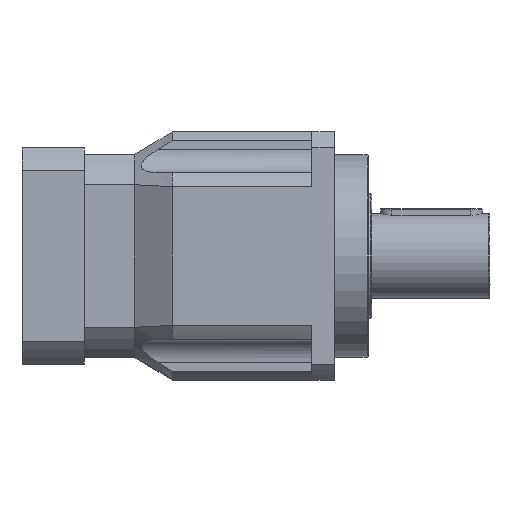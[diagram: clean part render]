
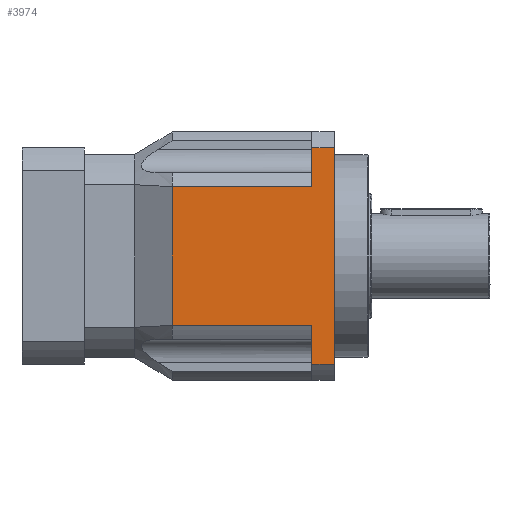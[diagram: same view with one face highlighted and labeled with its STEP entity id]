
A CAD part, front view. The second image highlights one B-rep face of the part: STEP entity #3974.
In plain terms, the highlighted planar face has unit normal (0, -1, 0).
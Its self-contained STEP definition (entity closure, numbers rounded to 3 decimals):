
#415 = CARTESIAN_POINT ( 'NONE',  ( 0., -110., -96. ) ) ;
#991 = LINE ( 'NONE', #3642, #22471 ) ;
#1016 = LINE ( 'NONE', #14905, #21692 ) ;
#1393 = VECTOR ( 'NONE', #26483, 1000. ) ;
#1495 = VECTOR ( 'NONE', #2083, 1000. ) ;
#2083 = DIRECTION ( 'NONE',  ( -1., 0., 0. ) ) ;
#2319 = EDGE_CURVE ( 'NONE', #31313, #10296, #16592, .T. ) ;
#2852 = VERTEX_POINT ( 'NONE', #12675 ) ;
#3352 = LINE ( 'NONE', #25812, #9686 ) ;
#3575 = AXIS2_PLACEMENT_3D ( 'NONE', #7586, #4949, #23786 ) ;
#3642 = CARTESIAN_POINT ( 'NONE',  ( -20., -110., -110. ) ) ;
#3974 = ADVANCED_FACE ( 'NONE', ( #22840 ), #21147, .T. ) ;
#4949 = DIRECTION ( 'NONE',  ( 0., -1., 0. ) ) ;
#6304 = VERTEX_POINT ( 'NONE', #14296 ) ;
#7083 = DIRECTION ( 'NONE',  ( 1., 0., 0. ) ) ;
#7586 = CARTESIAN_POINT ( 'NONE',  ( 0., -110., -110. ) ) ;
#7606 = VERTEX_POINT ( 'NONE', #17760 ) ;
#9686 = VECTOR ( 'NONE', #7083, 1000. ) ;
#9880 = CARTESIAN_POINT ( 'NONE',  ( 0., -110., -61.449 ) ) ;
#10233 = EDGE_LOOP ( 'NONE', ( #25854, #11196, #29592, #16395, #21115, #15401, #21593, #24035 ) ) ;
#10274 = CARTESIAN_POINT ( 'NONE',  ( -143.881, -110., 61.449 ) ) ;
#10296 = VERTEX_POINT ( 'NONE', #33581 ) ;
#10383 = EDGE_CURVE ( 'NONE', #31313, #33940, #3352, .T. ) ;
#11094 = EDGE_CURVE ( 'NONE', #34465, #6304, #13426, .T. ) ;
#11160 = VECTOR ( 'NONE', #15436, 1000. ) ;
#11196 = ORIENTED_EDGE ( 'NONE', *, *, #12151, .T. ) ;
#12151 = EDGE_CURVE ( 'NONE', #31977, #7606, #991, .T. ) ;
#12675 = CARTESIAN_POINT ( 'NONE',  ( 0., -110., -96. ) ) ;
#13016 = CARTESIAN_POINT ( 'NONE',  ( 0., -110., 61.449 ) ) ;
#13426 = LINE ( 'NONE', #14576, #27724 ) ;
#14243 = LINE ( 'NONE', #415, #28543 ) ;
#14296 = CARTESIAN_POINT ( 'NONE',  ( -143.881, -110., -61.449 ) ) ;
#14414 = EDGE_CURVE ( 'NONE', #2852, #33940, #1016, .T. ) ;
#14576 = CARTESIAN_POINT ( 'NONE',  ( -143.881, -110., -110. ) ) ;
#14905 = CARTESIAN_POINT ( 'NONE',  ( 0., -110., 0. ) ) ;
#15401 = ORIENTED_EDGE ( 'NONE', *, *, #2319, .T. ) ;
#15436 = DIRECTION ( 'NONE',  ( 1., 0., 0. ) ) ;
#16395 = ORIENTED_EDGE ( 'NONE', *, *, #14414, .T. ) ;
#16592 = LINE ( 'NONE', #34517, #1393 ) ;
#16622 = EDGE_CURVE ( 'NONE', #7606, #2852, #14243, .T. ) ;
#17760 = CARTESIAN_POINT ( 'NONE',  ( -20., -110., -96. ) ) ;
#17866 = CARTESIAN_POINT ( 'NONE',  ( -20., -110., 96. ) ) ;
#19276 = DIRECTION ( 'NONE',  ( 1., 0., 0. ) ) ;
#19746 = CARTESIAN_POINT ( 'NONE',  ( 0., -110., 96. ) ) ;
#19920 = DIRECTION ( 'NONE',  ( 0., 0., -1. ) ) ;
#21115 = ORIENTED_EDGE ( 'NONE', *, *, #10383, .F. ) ;
#21147 = PLANE ( 'NONE',  #3575 ) ;
#21593 = ORIENTED_EDGE ( 'NONE', *, *, #26362, .T. ) ;
#21692 = VECTOR ( 'NONE', #33722, 1000. ) ;
#22471 = VECTOR ( 'NONE', #19920, 1000. ) ;
#22840 = FACE_OUTER_BOUND ( 'NONE', #10233, .T. ) ;
#23559 = EDGE_CURVE ( 'NONE', #6304, #31977, #31840, .T. ) ;
#23786 = DIRECTION ( 'NONE',  ( 0., 0., -1. ) ) ;
#24035 = ORIENTED_EDGE ( 'NONE', *, *, #11094, .T. ) ;
#25271 = DIRECTION ( 'NONE',  ( 0., 0., -1. ) ) ;
#25812 = CARTESIAN_POINT ( 'NONE',  ( -20., -110., 96. ) ) ;
#25854 = ORIENTED_EDGE ( 'NONE', *, *, #23559, .T. ) ;
#26362 = EDGE_CURVE ( 'NONE', #10296, #34465, #29325, .T. ) ;
#26483 = DIRECTION ( 'NONE',  ( 0., 0., -1. ) ) ;
#27724 = VECTOR ( 'NONE', #25271, 1000. ) ;
#28543 = VECTOR ( 'NONE', #19276, 1000. ) ;
#29325 = LINE ( 'NONE', #13016, #1495 ) ;
#29592 = ORIENTED_EDGE ( 'NONE', *, *, #16622, .T. ) ;
#31313 = VERTEX_POINT ( 'NONE', #17866 ) ;
#31840 = LINE ( 'NONE', #9880, #11160 ) ;
#31897 = CARTESIAN_POINT ( 'NONE',  ( -20., -110., -61.449 ) ) ;
#31977 = VERTEX_POINT ( 'NONE', #31897 ) ;
#33581 = CARTESIAN_POINT ( 'NONE',  ( -20., -110., 61.449 ) ) ;
#33722 = DIRECTION ( 'NONE',  ( 0., 0., 1. ) ) ;
#33940 = VERTEX_POINT ( 'NONE', #19746 ) ;
#34465 = VERTEX_POINT ( 'NONE', #10274 ) ;
#34517 = CARTESIAN_POINT ( 'NONE',  ( -20., -110., -110. ) ) ;
